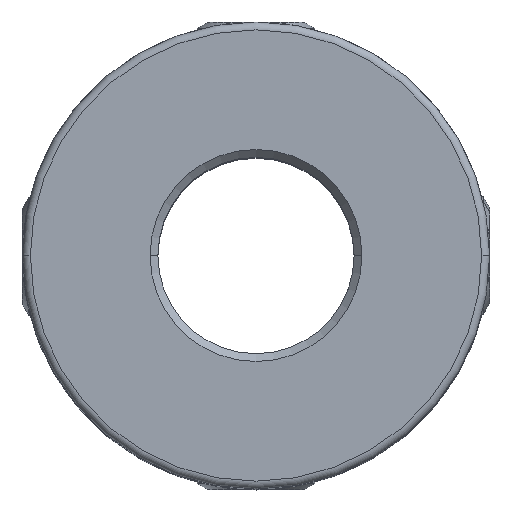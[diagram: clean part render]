
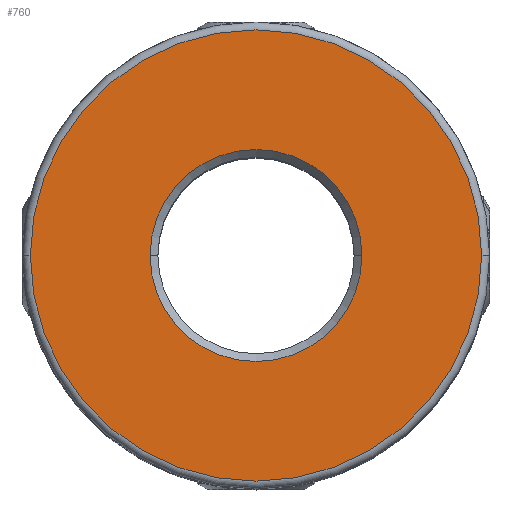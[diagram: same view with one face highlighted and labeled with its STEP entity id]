
A CAD part, top view. The second image highlights one B-rep face of the part: STEP entity #760.
In plain terms, the highlighted planar face has unit normal (0, 0, 1).
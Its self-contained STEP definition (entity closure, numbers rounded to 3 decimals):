
#58 = ORIENTED_EDGE ( 'NONE', *, *, #5209, .T. ) ;
#125 = DIRECTION ( 'NONE',  ( 0., 0., -1. ) ) ;
#379 = CARTESIAN_POINT ( 'NONE',  ( 0., 0., 7.25 ) ) ;
#602 = CARTESIAN_POINT ( 'NONE',  ( 2.7, 0., 7.25 ) ) ;
#749 = AXIS2_PLACEMENT_3D ( 'NONE', #3950, #1854, #2881 ) ;
#760 = ADVANCED_FACE ( 'NONE', ( #5684, #1338 ), #2947, .T. ) ;
#771 = CIRCLE ( 'NONE', #2735, 2.7 ) ;
#917 = EDGE_CURVE ( 'NONE', #3379, #5190, #771, .T. ) ;
#1254 = EDGE_CURVE ( 'NONE', #5177, #3811, #6132, .T. ) ;
#1338 = FACE_OUTER_BOUND ( 'NONE', #5790, .T. ) ;
#1357 = CARTESIAN_POINT ( 'NONE',  ( 0., 0., 7.25 ) ) ;
#1467 = DIRECTION ( 'NONE',  ( 1., 0., 0. ) ) ;
#1501 = EDGE_CURVE ( 'NONE', #5190, #3379, #3804, .T. ) ;
#1854 = DIRECTION ( 'NONE',  ( 0., 0., -1. ) ) ;
#1990 = AXIS2_PLACEMENT_3D ( 'NONE', #379, #4046, #1467 ) ;
#2074 = AXIS2_PLACEMENT_3D ( 'NONE', #1357, #6592, #3443 ) ;
#2201 = DIRECTION ( 'NONE',  ( 1., 0., 0. ) ) ;
#2685 = CARTESIAN_POINT ( 'NONE',  ( -5.75, 0., 7.25 ) ) ;
#2735 = AXIS2_PLACEMENT_3D ( 'NONE', #6286, #125, #4766 ) ;
#2881 = DIRECTION ( 'NONE',  ( 1., 0., 0. ) ) ;
#2947 = PLANE ( 'NONE',  #2074 ) ;
#3113 = ORIENTED_EDGE ( 'NONE', *, *, #917, .T. ) ;
#3370 = CIRCLE ( 'NONE', #4886, 5.75 ) ;
#3379 = VERTEX_POINT ( 'NONE', #602 ) ;
#3443 = DIRECTION ( 'NONE',  ( 1., 0., 0. ) ) ;
#3480 = EDGE_LOOP ( 'NONE', ( #3113, #4614 ) ) ;
#3804 = CIRCLE ( 'NONE', #749, 2.7 ) ;
#3811 = VERTEX_POINT ( 'NONE', #2685 ) ;
#3950 = CARTESIAN_POINT ( 'NONE',  ( 0., 0., 7.25 ) ) ;
#4046 = DIRECTION ( 'NONE',  ( 0., 0., 1. ) ) ;
#4614 = ORIENTED_EDGE ( 'NONE', *, *, #1501, .T. ) ;
#4766 = DIRECTION ( 'NONE',  ( 1., 0., 0. ) ) ;
#4804 = CARTESIAN_POINT ( 'NONE',  ( 5.75, 0., 7.25 ) ) ;
#4886 = AXIS2_PLACEMENT_3D ( 'NONE', #6318, #6412, #2201 ) ;
#4926 = CARTESIAN_POINT ( 'NONE',  ( -2.7, 0., 7.25 ) ) ;
#5001 = ORIENTED_EDGE ( 'NONE', *, *, #1254, .T. ) ;
#5177 = VERTEX_POINT ( 'NONE', #4804 ) ;
#5190 = VERTEX_POINT ( 'NONE', #4926 ) ;
#5209 = EDGE_CURVE ( 'NONE', #3811, #5177, #3370, .T. ) ;
#5684 = FACE_BOUND ( 'NONE', #3480, .T. ) ;
#5790 = EDGE_LOOP ( 'NONE', ( #5001, #58 ) ) ;
#6132 = CIRCLE ( 'NONE', #1990, 5.75 ) ;
#6286 = CARTESIAN_POINT ( 'NONE',  ( 0., 0., 7.25 ) ) ;
#6318 = CARTESIAN_POINT ( 'NONE',  ( 0., 0., 7.25 ) ) ;
#6412 = DIRECTION ( 'NONE',  ( 0., 0., 1. ) ) ;
#6592 = DIRECTION ( 'NONE',  ( 0., 0., 1. ) ) ;
